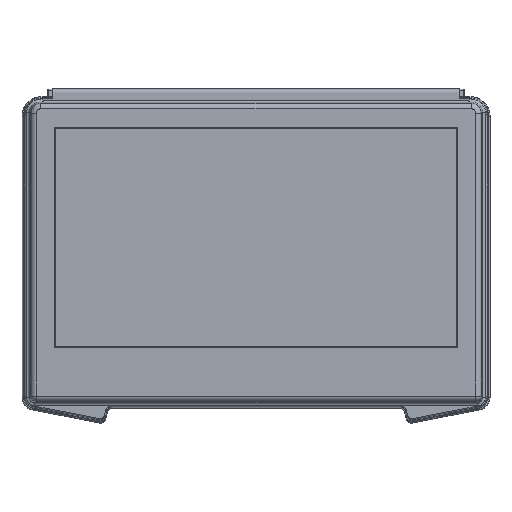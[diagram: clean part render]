
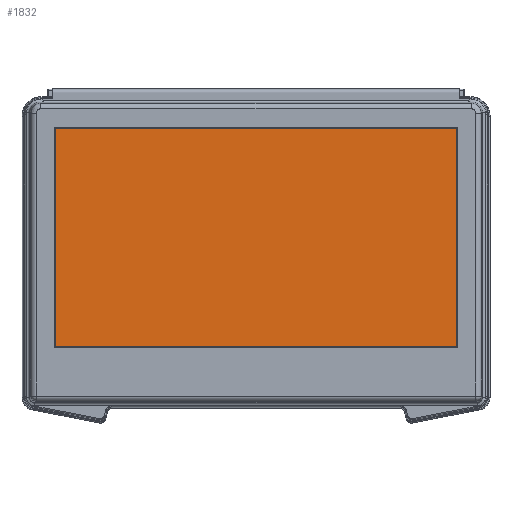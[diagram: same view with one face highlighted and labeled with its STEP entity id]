
A CAD part, top view. The second image highlights one B-rep face of the part: STEP entity #1832.
In plain terms, the highlighted planar face has unit normal (0, 0, 1).
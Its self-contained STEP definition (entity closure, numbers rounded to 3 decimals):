
#1832=ADVANCED_FACE('',(#2735),#2251,.F.);
#2251=PLANE('',#12105);
#2735=FACE_OUTER_BOUND('',#3446,.T.);
#3446=EDGE_LOOP('',(#5839,#5840,#5841,#5842));
#5839=ORIENTED_EDGE('',*,*,#9227,.F.);
#5840=ORIENTED_EDGE('',*,*,#9228,.F.);
#5841=ORIENTED_EDGE('',*,*,#9229,.T.);
#5842=ORIENTED_EDGE('',*,*,#9230,.F.);
#7825=VERTEX_POINT('',#20340);
#7826=VERTEX_POINT('',#20341);
#7827=VERTEX_POINT('',#20343);
#7828=VERTEX_POINT('',#20345);
#9227=EDGE_CURVE('',#7825,#7826,#10382,.T.);
#9228=EDGE_CURVE('',#7827,#7825,#10383,.T.);
#9229=EDGE_CURVE('',#7827,#7828,#10384,.T.);
#9230=EDGE_CURVE('',#7826,#7828,#10385,.T.);
#10382=LINE('',#20339,#11213);
#10383=LINE('',#20342,#11214);
#10384=LINE('',#20344,#11215);
#10385=LINE('',#20346,#11216);
#11213=VECTOR('',#14535,1.);
#11214=VECTOR('',#14536,1.);
#11215=VECTOR('',#14537,1.);
#11216=VECTOR('',#14538,1.);
#12105=AXIS2_PLACEMENT_3D('',#20347,#14539,#14540);
#14535=DIRECTION('',(0.,1.,0.));
#14536=DIRECTION('',(-1.,0.,0.));
#14537=DIRECTION('',(0.,1.,0.));
#14538=DIRECTION('',(1.,0.,0.));
#14539=DIRECTION('',(0.,0.,-1.));
#14540=DIRECTION('',(-1.,0.,0.));
#20339=CARTESIAN_POINT('',(-190.62,-32.8,17.8));
#20340=CARTESIAN_POINT('',(-190.62,-240.42,17.8));
#20341=CARTESIAN_POINT('',(-190.62,-33.18,17.8));
#20342=CARTESIAN_POINT('',(-191.,-240.42,17.8));
#20343=CARTESIAN_POINT('',(190.62,-240.42,17.8));
#20344=CARTESIAN_POINT('',(190.62,-32.8,17.8));
#20345=CARTESIAN_POINT('',(190.62,-33.18,17.8));
#20346=CARTESIAN_POINT('',(-191.,-33.18,17.8));
#20347=CARTESIAN_POINT('',(-191.,-32.8,17.8));
